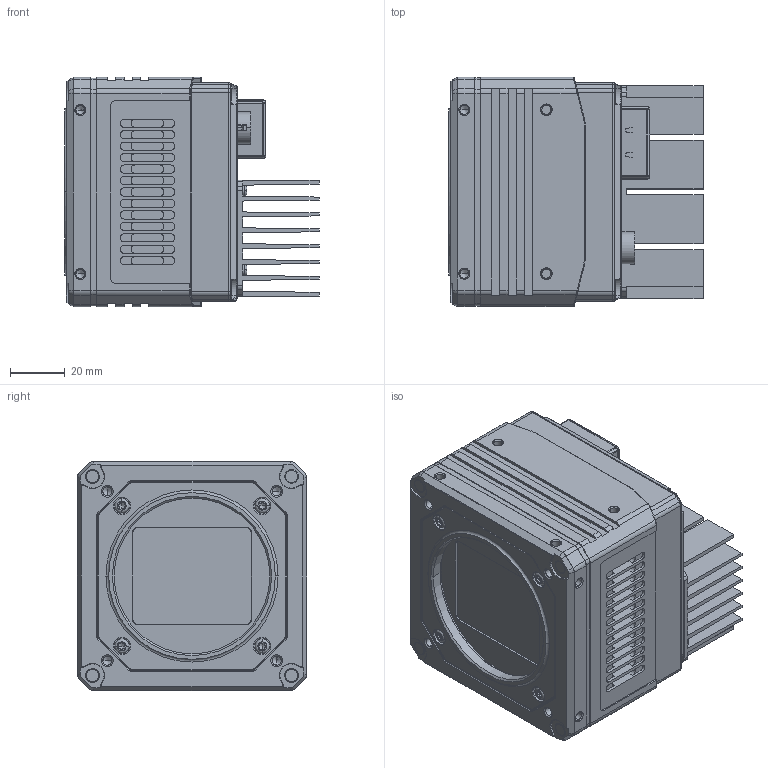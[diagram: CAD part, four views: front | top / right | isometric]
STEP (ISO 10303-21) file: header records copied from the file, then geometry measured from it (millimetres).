
FILE_DESCRIPTION((''),'2;1');
FILE_NAME('MV-CH1030-90TM_ID_000_ASM','2023-11-29T11:12:40',('wangyijun6'),(''),'CREO PARAMETRIC BY PTC INC, 2017260','CREO PARAMETRIC BY PTC INC, 2017260','');
FILE_SCHEMA(('CONFIG_CONTROL_DESIGN'));
Products named in the file (1): MV-CH1030-90TM_ID_000_ASM
Bounding box: 93.04 x 84 x 84 mm (x, y, z)
Volume: 416950.1 mm3; surface area: 128713.3 mm2
Topology: 1 solids, 148 shells, 4922 faces, 12624 edges, 7982 vertices
Faces by surface type: plane 2599, cylinder 1336, cone 487, bspline 291, extrusion 109, torus 82, sphere 18
Entity records: 169194 total; most frequent: CARTESIAN_POINT 51692, ORIENTED_EDGE 24847, DIRECTION 23432, EDGE_CURVE 12552, VERTEX_POINT 7982, AXIS2_PLACEMENT_3D 7859, VECTOR 7714, LINE 7605
